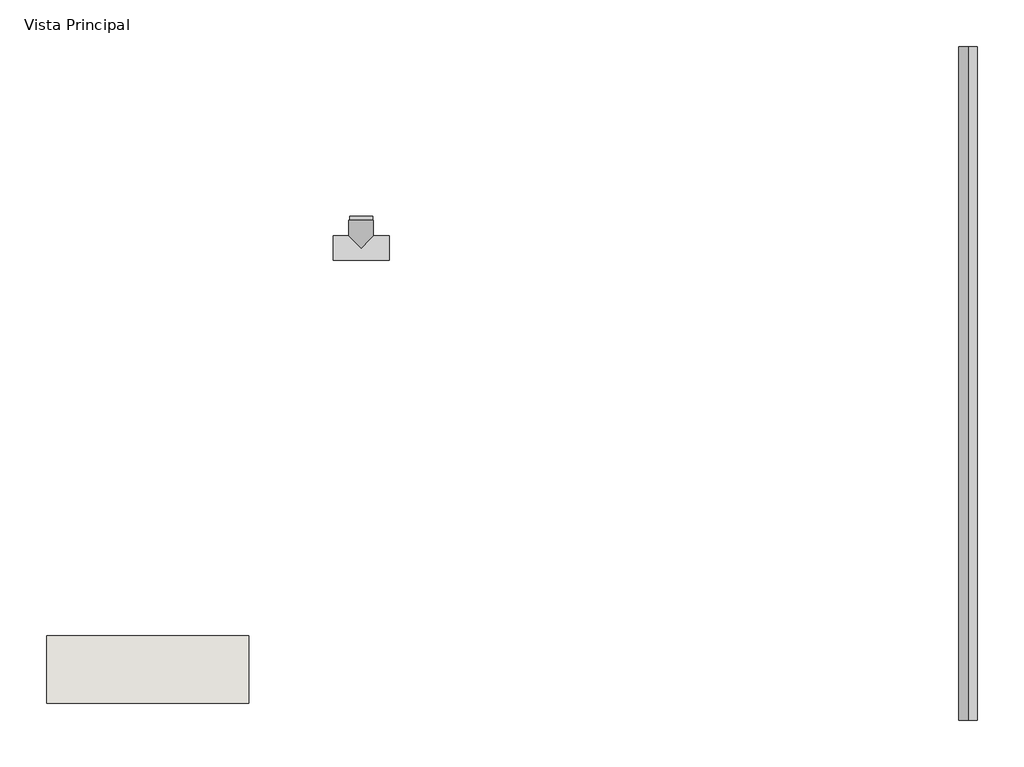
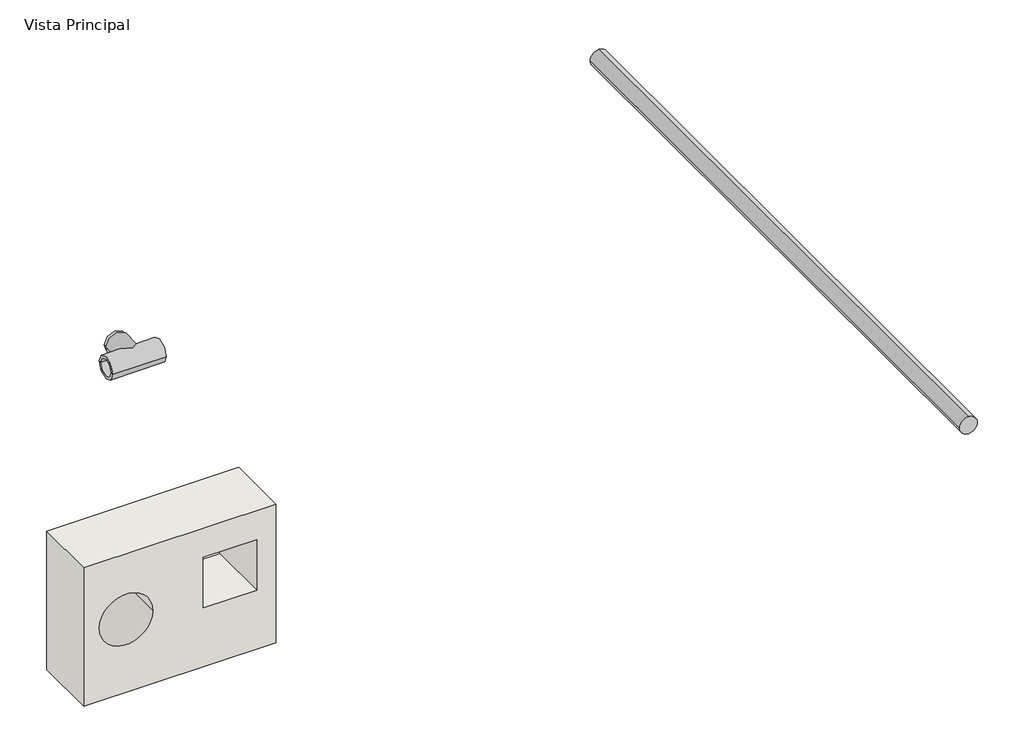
# One storey, incomplete: 2 pipe fittings, 1 pipe segment, 1 wall.
"""IFC4 building model written with IfcOpenShell, lengths in millimetres."""

from ifc_helpers import new_model, si_unit, point, frame, frame_2d, origin, place, context, project, spatial, polyline, circle_curve, trimmed, segment, composite_curve, outline, extrude, transform, mapped, element, save
from components import sch40_c5e482b5, var_74b1aaee

model = new_model("IFC4")

# Units and contexts
model_context = context("Model", 3, world=origin())
ifc_project = project(units=[si_unit("LENGTHUNIT", "METRE", prefix="MILLI")], contexts=[model_context])

# Site, building, storey
site = spatial("IfcSite", under=ifc_project)
building = spatial("IfcBuilding", under=site)
storey = spatial("IfcBuildingStorey", under=building, Name="Vista Principal", Elevation=0.0)

# Pipe fittings
placement = place(None, origin())
sch40_shape = sch40_c5e482b5(model_context)
element("IfcPipeFitting", 1, ObjectType="AmancoWavin_Unionesdetubería_Ced-80ZNoUsarRReducciónBushing : SCH40", at=placement, inside=storey, context=model_context, shape_type="MappedRepresentation", body=[
    mapped(sch40_shape, transform((865.2502233, 1180.1419381, 1.0), x_axis=(0.0, 1.0, 0.0), y_axis=(1.0, 0.0, 0.0), z_axis=(0.0, 0.0, -1.0))),
])
var_shape = var_74b1aaee(model_context)
element("IfcPipeFitting", 2, ObjectType="AmancoWavin_Unionesdetubería_Ced-80Tee : Var.", at=placement, inside=storey, context=model_context, shape_type="MappedRepresentation", body=[
    mapped(var_shape, transform((865.2502233, 1163.0706155, 1.0), x_axis=(-1.0, 0.0, 0.0), y_axis=(0.0, 1.0, 0.0), z_axis=(0.0, 0.0, -1.0))),
])

# Pipe segment
element("IfcPipeSegment", 3, ObjectType="AmancoWavin_Tuberías_Cédula 80 ½\" - 8\" (6 mts)", at=placement, inside=storey, context=model_context, shape_type="SweptSolid", body=[
    extrude(outline(composite_curve([segment(trimmed(circle_curve(frame_2d((1.0, 1946.329608)), 16.66875), [point((1.0, 1929.660858))], [point((-15.66875, 1946.329608))], False, "CARTESIAN"), True, "CONTINUOUS"), segment(trimmed(circle_curve(frame_2d((1.0, 1946.329608)), 16.66875), [point((-15.66875, 1946.329608))], [point((1.0, 1962.998358))], False, "CARTESIAN"), True, "CONTINUOUS"), segment(trimmed(circle_curve(frame_2d((1.0, 1946.329608)), 16.66875), [point((1.0, 1962.998358))], [point((17.66875, 1946.329608))], False, "CARTESIAN"), True, "CONTINUOUS"), segment(trimmed(circle_curve(frame_2d((1.0, 1946.329608)), 16.66875), [point((17.66875, 1946.329608))], [point((1.0, 1929.660858))], False, "CARTESIAN"), True, "CONTINUOUS")], self_intersect=False)), frame((0.0, 322.1860886, 0.0), z_axis=(0.0, 1.0, 0.0), x_axis=(0.0, 0.0, 1.0)), (0.0, 0.0, 1.0), 1200.0),
])

# Wall
element("IfcWall", 4, ObjectType="Wall 1", at=placement, inside=storey, context=model_context, shape_type="SweptSolid", body=[
    extrude(outline(polyline([(0.0, 304.8914133), (0.0, 664.8914133), (274.7987763, 664.8914133), (274.7987763, 304.8914133), (0.0, 304.8914133)]), holes=[composite_curve([segment(trimmed(circle_curve(frame_2d((144.4282969, 384.6018726)), 50.0), [point((144.4282969, 434.6018726))], [point((144.4282969, 334.6018726))], True, "CARTESIAN"), True, "CONTINUOUS"), segment(trimmed(circle_curve(frame_2d((144.4282969, 384.6018726)), 50.0), [point((144.4282969, 334.6018726))], [point((144.4282969, 434.6018726))], True, "CARTESIAN"), True, "CONTINUOUS")], self_intersect=False), polyline([(216.4896004, 529.6018726), (216.4896004, 629.6018726), (116.4896004, 629.6018726), (116.4896004, 529.6018726), (216.4896004, 529.6018726)])]), frame((0.0, 352.3084254, 0.0), z_axis=(0.0, 1.0, 0.0), x_axis=(0.0, 0.0, 1.0)), (0.0, 0.0, 1.0), 120.0),
])

save(model, "model.ifc")
